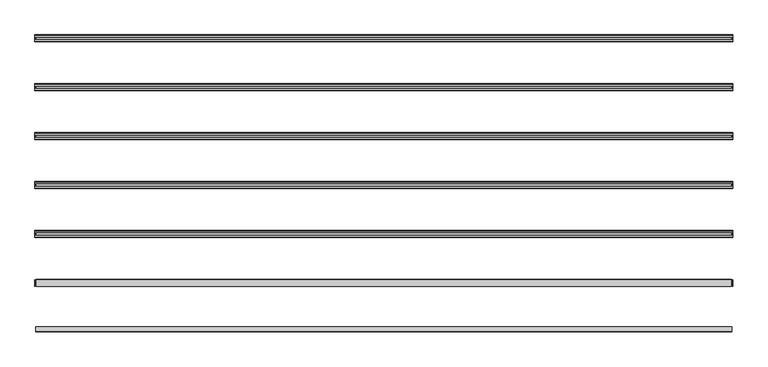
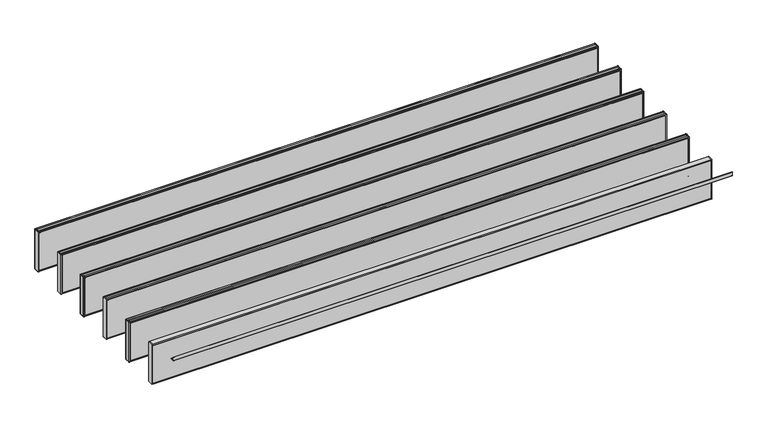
"""IFC4 building model written with IfcOpenShell, lengths in millimetres: proxy geometry, durlum_POLYLAM : durlum_POLYLAM 40 RV-L6."""

from ifc_helpers import new_model, si_unit, point, frame, frame_2d, origin, place, context, project, spatial, polyline, circle_curve, trimmed, segment, composite_curve, outline, extrude, source, transform, mapped, element, save
from ifc_brep_helpers import plane_surface, cylinder_surface, advanced_brep


def generic_models_68ff6faa(model_context):
    return source(origin(), model_context, "Body", "SolidModel", [
        extrude(outline(composite_curve([segment(polyline([(2.0, 2079.9), (2.0, 2054.0)]), True, "CONTINUOUS"), segment(trimmed(circle_curve(frame_2d((4.0, 2054.0)), 2.0), [point((2.0, 2054.0))], [point((4.0, 2052.0))], True, "CARTESIAN"), True, "CONTINUOUS"), segment(polyline([(4.0, 2052.0), (29.9, 2052.0), (29.9, 2050.0), (4.0, 2050.0)]), True, "CONTINUOUS"), segment(trimmed(circle_curve(frame_2d((4.0, 2054.0)), 4.0), [point((4.0, 2050.0))], [point((0.0, 2054.0))], False, "CARTESIAN"), True, "CONTINUOUS"), segment(polyline([(0.0, 2054.0), (0.0, 2079.9), (2.0, 2079.9)]), True, "CONTINUOUS")], self_intersect=False)), frame((-1990.0, 0.0, 0.0), z_axis=(1.0, 0.0, 0.0), x_axis=(0.0, 1.0, 0.0)), (0.0, 0.0, 1.0), 3980.0),
        extrude(outline(polyline([(1993.0, 1699.0), (1995.0, 1699.0), (1995.0, 1661.0), (1993.0, 1661.0), (1993.0, 1699.0)])), frame((0.0, 0.0, 1717.9), z_axis=(0.0, 0.0, 1.0), x_axis=(1.0, 0.0, 0.0)), (0.0, 0.0, 1.0), 298.0),
        extrude(outline(polyline([(-1995.0, 1699.0), (-1993.0, 1699.0), (-1993.0, 1661.0), (-1995.0, 1661.0), (-1995.0, 1699.0)])), frame((0.0, 0.0, 1717.9), z_axis=(0.0, 0.0, 1.0), x_axis=(1.0, 0.0, 0.0)), (0.0, 0.0, 1.0), 298.0),
        extrude(outline(polyline([(1986.5, 1699.0), (1986.5, 1661.0), (-1986.5, 1661.0), (-1986.5, 1699.0), (1986.5, 1699.0)])), frame((0.0, 0.0, 1717.9), z_axis=(0.0, 0.0, 1.0), x_axis=(1.0, 0.0, 0.0)), (0.0, 0.0, 1.0), 298.0),
        extrude(outline(polyline([(1986.5, 1699.0), (-1986.5, 1699.0), (-1986.5, 1700.0), (1986.5, 1700.0), (1986.5, 1699.0)])), frame((0.0, 0.0, 1725.4), z_axis=(0.0, 0.0, 1.0), x_axis=(1.0, 0.0, 0.0)), (0.0, 0.0, 1.0), 283.0),
        extrude(outline(polyline([(1986.5, 1660.0), (-1986.5, 1660.0), (-1986.5, 1661.0), (1986.5, 1661.0), (1986.5, 1660.0)])), frame((0.0, 0.0, 1725.4), z_axis=(0.0, 0.0, 1.0), x_axis=(1.0, 0.0, 0.0)), (0.0, 0.0, 1.0), 283.0),
        advanced_brep(
        [(1995.0, 1698.0, 2016.9), (1995.0, 1688.0, 2016.9), (1995.0, 1688.0, 2015.9), (1995.0, 1699.0, 2015.9), (1995.0, 1699.0, 1717.9), (1995.0, 1661.0, 1717.9), (1995.0, 1661.0, 2015.8155735), (1995.0, 1672.0, 2015.8155735), (1995.0, 1672.0, 2016.9), (1995.0, 1662.0, 2016.9), (1995.0, 1660.0, 2014.9), (1995.0, 1660.0, 1718.9), (1995.0, 1662.0, 1716.9), (1995.0, 1698.0, 1716.9), (1995.0, 1700.0, 1718.9), (1995.0, 1700.0, 2014.9), (-1995.0, 1698.0, 2016.9), (-1995.0, 1700.0, 2014.9), (-1995.0, 1700.0, 1718.9), (-1995.0, 1698.0, 1716.9), (-1995.0, 1662.0, 1716.9), (-1995.0, 1660.0, 1718.9), (-1995.0, 1660.0, 2014.9), (-1995.0, 1662.0, 2016.9), (-1995.0, 1672.0, 2016.9), (-1995.0, 1672.0, 2015.8155735), (-1995.0, 1661.0, 2015.8155735), (-1995.0, 1661.0, 1717.9), (-1995.0, 1699.0, 1717.9), (-1995.0, 1699.0, 2015.9), (-1995.0, 1688.0, 2015.9), (-1995.0, 1688.0, 2016.9), (-1986.5, 1699.0, 2008.4), (1986.5, 1699.0, 2008.4), (1986.5, 1699.0, 1725.4), (-1986.5, 1699.0, 1725.4), (1986.5, 1661.0, 2008.4), (-1986.5, 1661.0, 2008.4), (-1986.5, 1661.0, 1725.4), (1986.5, 1661.0, 1725.4), (-1986.5, 1660.0, 2008.4), (1986.5, 1660.0, 2008.4), (1986.5, 1660.0, 1725.4), (-1986.5, 1660.0, 1725.4), (1986.5, 1700.0, 2008.4), (-1986.5, 1700.0, 2008.4), (-1986.5, 1700.0, 1725.4), (1986.5, 1700.0, 1725.4)],
        [
            (0, 1),
            (1, 2),
            (2, 3),
            (3, 4),
            (4, 5),
            (5, 6),
            (6, 7),
            (7, 8),
            (8, 9),
            (9, 10, circle_curve(frame((1995.0, 1662.0, 2014.9), z_axis=(1.0, 0.0, 0.0), x_axis=(0.0, 1.0, 0.0)), 2.0)),
            (10, 11),
            (11, 12, circle_curve(frame((1995.0, 1662.0, 1718.9), z_axis=(1.0, 0.0, 0.0), x_axis=(0.0, 1.0, 0.0)), 2.0)),
            (12, 13),
            (13, 14, circle_curve(frame((1995.0, 1698.0, 1718.9), z_axis=(1.0, 0.0, 0.0), x_axis=(0.0, 1.0, 0.0)), 2.0)),
            (14, 15),
            (15, 0, circle_curve(frame((1995.0, 1698.0, 2014.9), z_axis=(1.0, 0.0, 0.0), x_axis=(0.0, 1.0, 0.0)), 2.0)),
            (16, 17, circle_curve(frame((-1995.0, 1698.0, 2014.9), z_axis=(-1.0, 0.0, 0.0), x_axis=(0.0, 1.0, 0.0)), 2.0)),
            (17, 18),
            (18, 19, circle_curve(frame((-1995.0, 1698.0, 1718.9), z_axis=(-1.0, 0.0, 0.0), x_axis=(0.0, 1.0, 0.0)), 2.0)),
            (19, 20),
            (20, 21, circle_curve(frame((-1995.0, 1662.0, 1718.9), z_axis=(-1.0, 0.0, 0.0), x_axis=(0.0, 1.0, 0.0)), 2.0)),
            (21, 22),
            (22, 23, circle_curve(frame((-1995.0, 1662.0, 2014.9), z_axis=(-1.0, 0.0, 0.0), x_axis=(0.0, 1.0, 0.0)), 2.0)),
            (23, 24),
            (24, 25),
            (25, 26),
            (26, 27),
            (27, 28),
            (28, 29),
            (29, 30),
            (30, 31),
            (31, 16),
            (0, 16),
            (31, 1),
            (30, 2),
            (29, 3),
            (28, 4),
            (32, 33),
            (33, 34),
            (34, 35),
            (35, 32),
            (27, 5),
            (26, 6),
            (36, 37),
            (37, 38),
            (38, 39),
            (39, 36),
            (25, 7),
            (24, 8),
            (23, 9),
            (10, 22),
            (21, 11),
            (40, 41),
            (41, 42),
            (42, 43),
            (43, 40),
            (12, 20),
            (19, 13),
            (14, 18),
            (17, 15),
            (44, 45),
            (45, 46),
            (46, 47),
            (47, 44),
            (44, 33),
            (32, 45),
            (36, 41),
            (40, 37),
            (35, 46),
            (43, 38),
            (34, 47),
            (42, 39),
        ],
        [
            plane_surface(frame((1995.0, 1688.0, 2016.9), z_axis=(1.0, 0.0, 0.0), x_axis=(0.0, -1.0, 0.0))),
            plane_surface(frame((-1995.0, 1688.0, 2016.9), z_axis=(-1.0, 0.0, 0.0), x_axis=(0.0, 1.0, 0.0))),
            plane_surface(frame((1995.0, 1698.0, 2016.9), z_axis=(0.0, 0.0, 1.0), x_axis=(-1.0, 0.0, 0.0))),
            plane_surface(frame((1995.0, 1688.0, 2016.9), z_axis=(0.0, -1.0, 0.0), x_axis=(-1.0, 0.0, 0.0))),
            plane_surface(frame((1995.0, 1688.0, 2015.9), z_axis=(0.0, 0.0, -1.0), x_axis=(-1.0, 0.0, 0.0))),
            plane_surface(frame((1995.0, 1699.0, 2015.9), z_axis=(0.0, -1.0, 0.0), x_axis=(-1.0, 0.0, 0.0))),
            plane_surface(frame((1995.0, 1699.0, 1717.9), z_axis=(0.0, 0.0, 1.0), x_axis=(-1.0, 0.0, 0.0))),
            plane_surface(frame((1995.0, 1661.0, 1717.9), z_axis=(0.0, 1.0, 0.0), x_axis=(-1.0, 0.0, 0.0))),
            plane_surface(frame((1995.0, 1661.0, 2015.8155735), z_axis=(0.0, 0.0, -1.0), x_axis=(-1.0, 0.0, 0.0))),
            plane_surface(frame((1995.0, 1672.0, 2015.8155735), z_axis=(0.0, 1.0, 0.0), x_axis=(-1.0, 0.0, 0.0))),
            plane_surface(frame((1995.0, 1672.0, 2016.9), z_axis=(0.0, 0.0, 1.0), x_axis=(-1.0, 0.0, 0.0))),
            plane_surface(frame((1995.0, 1660.0, 2014.9), z_axis=(0.0, -1.0, 0.0), x_axis=(-1.0, 0.0, 0.0))),
            plane_surface(frame((1995.0, 1662.0, 1716.9), z_axis=(0.0, 0.0, -1.0), x_axis=(-1.0, 0.0, 0.0))),
            plane_surface(frame((1995.0, 1700.0, 1718.9), z_axis=(0.0, 1.0, 0.0), x_axis=(-1.0, 0.0, 0.0))),
            cylinder_surface(frame((-1995.0, 1662.0, 2014.9), z_axis=(1.0, 0.0, 0.0), x_axis=(0.0, 1.0, 0.0)), 2.0),
            cylinder_surface(frame((-1995.0, 1662.0, 1718.9), z_axis=(1.0, 0.0, 0.0), x_axis=(0.0, 1.0, 0.0)), 2.0),
            cylinder_surface(frame((-1995.0, 1698.0, 1718.9), z_axis=(1.0, 0.0, 0.0), x_axis=(0.0, 1.0, 0.0)), 2.0),
            cylinder_surface(frame((-1995.0, 1698.0, 2014.9), z_axis=(1.0, 0.0, 0.0), x_axis=(0.0, 1.0, 0.0)), 2.0),
            plane_surface(frame((1986.5, 1660.0, 2008.4), z_axis=(0.0, 0.0, -1.0), x_axis=(0.0, 1.0, 0.0))),
            plane_surface(frame((-1986.5, 1660.0, 2008.4), z_axis=(1.0, 0.0, 0.0), x_axis=(0.0, 1.0, 0.0))),
            plane_surface(frame((-1986.5, 1660.0, 1725.4), z_axis=(0.0, 0.0, 1.0), x_axis=(0.0, 1.0, 0.0))),
            plane_surface(frame((1986.5, 1660.0, 1725.4), z_axis=(-1.0, 0.0, 0.0), x_axis=(0.0, 1.0, 0.0))),
        ],
        [
            (0, [[1, 2, 3, 4, 5, 6, 7, 8, 9, 10, 11, 12, 13, 14, 15, 16]]),
            (1, [[17, 18, 19, 20, 21, 22, 23, 24, 25, 26, 27, 28, 29, 30, 31, 32]]),
            (2, [[-1, 33, -32, 34]]),
            (3, [[-2, -34, -31, 35]]),
            (4, [[-3, -35, -30, 36]]),
            (5, [[-4, -36, -29, 37], [38, 39, 40, 41]]),
            (6, [[-5, -37, -28, 42]]),
            (7, [[-6, -42, -27, 43], [44, 45, 46, 47]]),
            (8, [[-7, -43, -26, 48]]),
            (9, [[-8, -48, -25, 49]]),
            (10, [[-9, -49, -24, 50]]),
            (11, [[-11, 51, -22, 52], [53, 54, 55, 56]]),
            (12, [[-13, 57, -20, 58]]),
            (13, [[-15, 59, -18, 60], [61, 62, 63, 64]]),
            (14, [[-10, -50, -23, -51]]),
            (15, [[-12, -52, -21, -57]]),
            (16, [[-14, -58, -19, -59]]),
            (17, [[-16, -60, -17, -33]]),
            (18, [[65, -38, 66, -61]]),
            (18, [[67, -53, 68, -44]]),
            (19, [[-66, -41, 69, -62]]),
            (19, [[-68, -56, 70, -45]]),
            (20, [[-69, -40, 71, -63]]),
            (20, [[-70, -55, 72, -46]]),
            (21, [[-65, -64, -71, -39]]),
            (21, [[-67, -47, -72, -54]]),
        ],
    ),
        extrude(outline(polyline([(1993.0, 1419.0), (1995.0, 1419.0), (1995.0, 1381.0), (1993.0, 1381.0), (1993.0, 1419.0)])), frame((0.0, 0.0, 1717.9), z_axis=(0.0, 0.0, 1.0), x_axis=(1.0, 0.0, 0.0)), (0.0, 0.0, 1.0), 298.0),
        extrude(outline(polyline([(-1995.0, 1419.0), (-1993.0, 1419.0), (-1993.0, 1381.0), (-1995.0, 1381.0), (-1995.0, 1419.0)])), frame((0.0, 0.0, 1717.9), z_axis=(0.0, 0.0, 1.0), x_axis=(1.0, 0.0, 0.0)), (0.0, 0.0, 1.0), 298.0),
        extrude(outline(polyline([(1986.5, 1419.0), (1986.5, 1381.0), (-1986.5, 1381.0), (-1986.5, 1419.0), (1986.5, 1419.0)])), frame((0.0, 0.0, 1717.9), z_axis=(0.0, 0.0, 1.0), x_axis=(1.0, 0.0, 0.0)), (0.0, 0.0, 1.0), 298.0),
        extrude(outline(polyline([(1986.5, 1419.0), (-1986.5, 1419.0), (-1986.5, 1420.0), (1986.5, 1420.0), (1986.5, 1419.0)])), frame((0.0, 0.0, 1725.4), z_axis=(0.0, 0.0, 1.0), x_axis=(1.0, 0.0, 0.0)), (0.0, 0.0, 1.0), 283.0),
        extrude(outline(polyline([(1986.5, 1380.0), (-1986.5, 1380.0), (-1986.5, 1381.0), (1986.5, 1381.0), (1986.5, 1380.0)])), frame((0.0, 0.0, 1725.4), z_axis=(0.0, 0.0, 1.0), x_axis=(1.0, 0.0, 0.0)), (0.0, 0.0, 1.0), 283.0),
        advanced_brep(
        [(1995.0, 1418.0, 2016.9), (1995.0, 1408.0, 2016.9), (1995.0, 1408.0, 2015.9), (1995.0, 1419.0, 2015.9), (1995.0, 1419.0, 1717.9), (1995.0, 1381.0, 1717.9), (1995.0, 1381.0, 2015.8155735), (1995.0, 1392.0, 2015.8155735), (1995.0, 1392.0, 2016.9), (1995.0, 1382.0, 2016.9), (1995.0, 1380.0, 2014.9), (1995.0, 1380.0, 1718.9), (1995.0, 1382.0, 1716.9), (1995.0, 1418.0, 1716.9), (1995.0, 1420.0, 1718.9), (1995.0, 1420.0, 2014.9), (-1995.0, 1418.0, 2016.9), (-1995.0, 1420.0, 2014.9), (-1995.0, 1420.0, 1718.9), (-1995.0, 1418.0, 1716.9), (-1995.0, 1382.0, 1716.9), (-1995.0, 1380.0, 1718.9), (-1995.0, 1380.0, 2014.9), (-1995.0, 1382.0, 2016.9), (-1995.0, 1392.0, 2016.9), (-1995.0, 1392.0, 2015.8155735), (-1995.0, 1381.0, 2015.8155735), (-1995.0, 1381.0, 1717.9), (-1995.0, 1419.0, 1717.9), (-1995.0, 1419.0, 2015.9), (-1995.0, 1408.0, 2015.9), (-1995.0, 1408.0, 2016.9), (-1986.5, 1419.0, 2008.4), (1986.5, 1419.0, 2008.4), (1986.5, 1419.0, 1725.4), (-1986.5, 1419.0, 1725.4), (1986.5, 1381.0, 2008.4), (-1986.5, 1381.0, 2008.4), (-1986.5, 1381.0, 1725.4), (1986.5, 1381.0, 1725.4), (-1986.5, 1380.0, 2008.4), (1986.5, 1380.0, 2008.4), (1986.5, 1380.0, 1725.4), (-1986.5, 1380.0, 1725.4), (1986.5, 1420.0, 2008.4), (-1986.5, 1420.0, 2008.4), (-1986.5, 1420.0, 1725.4), (1986.5, 1420.0, 1725.4)],
        [
            (0, 1),
            (1, 2),
            (2, 3),
            (3, 4),
            (4, 5),
            (5, 6),
            (6, 7),
            (7, 8),
            (8, 9),
            (9, 10, circle_curve(frame((1995.0, 1382.0, 2014.9), z_axis=(1.0, 0.0, 0.0), x_axis=(0.0, 1.0, 0.0)), 2.0)),
            (10, 11),
            (11, 12, circle_curve(frame((1995.0, 1382.0, 1718.9), z_axis=(1.0, 0.0, 0.0), x_axis=(0.0, 1.0, 0.0)), 2.0)),
            (12, 13),
            (13, 14, circle_curve(frame((1995.0, 1418.0, 1718.9), z_axis=(1.0, 0.0, 0.0), x_axis=(0.0, 1.0, 0.0)), 2.0)),
            (14, 15),
            (15, 0, circle_curve(frame((1995.0, 1418.0, 2014.9), z_axis=(1.0, 0.0, 0.0), x_axis=(0.0, 1.0, 0.0)), 2.0)),
            (16, 17, circle_curve(frame((-1995.0, 1418.0, 2014.9), z_axis=(-1.0, 0.0, 0.0), x_axis=(0.0, 1.0, 0.0)), 2.0)),
            (17, 18),
            (18, 19, circle_curve(frame((-1995.0, 1418.0, 1718.9), z_axis=(-1.0, 0.0, 0.0), x_axis=(0.0, 1.0, 0.0)), 2.0)),
            (19, 20),
            (20, 21, circle_curve(frame((-1995.0, 1382.0, 1718.9), z_axis=(-1.0, 0.0, 0.0), x_axis=(0.0, 1.0, 0.0)), 2.0)),
            (21, 22),
            (22, 23, circle_curve(frame((-1995.0, 1382.0, 2014.9), z_axis=(-1.0, 0.0, 0.0), x_axis=(0.0, 1.0, 0.0)), 2.0)),
            (23, 24),
            (24, 25),
            (25, 26),
            (26, 27),
            (27, 28),
            (28, 29),
            (29, 30),
            (30, 31),
            (31, 16),
            (0, 16),
            (31, 1),
            (30, 2),
            (29, 3),
            (28, 4),
            (32, 33),
            (33, 34),
            (34, 35),
            (35, 32),
            (27, 5),
            (26, 6),
            (36, 37),
            (37, 38),
            (38, 39),
            (39, 36),
            (25, 7),
            (24, 8),
            (23, 9),
            (10, 22),
            (21, 11),
            (40, 41),
            (41, 42),
            (42, 43),
            (43, 40),
            (12, 20),
            (19, 13),
            (14, 18),
            (17, 15),
            (44, 45),
            (45, 46),
            (46, 47),
            (47, 44),
            (44, 33),
            (32, 45),
            (36, 41),
            (40, 37),
            (35, 46),
            (43, 38),
            (34, 47),
            (42, 39),
        ],
        [
            plane_surface(frame((1995.0, 1408.0, 2016.9), z_axis=(1.0, 0.0, 0.0), x_axis=(0.0, -1.0, 0.0))),
            plane_surface(frame((-1995.0, 1408.0, 2016.9), z_axis=(-1.0, 0.0, 0.0), x_axis=(0.0, 1.0, 0.0))),
            plane_surface(frame((1995.0, 1418.0, 2016.9), z_axis=(0.0, 0.0, 1.0), x_axis=(-1.0, 0.0, 0.0))),
            plane_surface(frame((1995.0, 1408.0, 2016.9), z_axis=(0.0, -1.0, 0.0), x_axis=(-1.0, 0.0, 0.0))),
            plane_surface(frame((1995.0, 1408.0, 2015.9), z_axis=(0.0, 0.0, -1.0), x_axis=(-1.0, 0.0, 0.0))),
            plane_surface(frame((1995.0, 1419.0, 2015.9), z_axis=(0.0, -1.0, 0.0), x_axis=(-1.0, 0.0, 0.0))),
            plane_surface(frame((1995.0, 1419.0, 1717.9), z_axis=(0.0, 0.0, 1.0), x_axis=(-1.0, 0.0, 0.0))),
            plane_surface(frame((1995.0, 1381.0, 1717.9), z_axis=(0.0, 1.0, 0.0), x_axis=(-1.0, 0.0, 0.0))),
            plane_surface(frame((1995.0, 1381.0, 2015.8155735), z_axis=(0.0, 0.0, -1.0), x_axis=(-1.0, 0.0, 0.0))),
            plane_surface(frame((1995.0, 1392.0, 2015.8155735), z_axis=(0.0, 1.0, 0.0), x_axis=(-1.0, 0.0, 0.0))),
            plane_surface(frame((1995.0, 1392.0, 2016.9), z_axis=(0.0, 0.0, 1.0), x_axis=(-1.0, 0.0, 0.0))),
            plane_surface(frame((1995.0, 1380.0, 2014.9), z_axis=(0.0, -1.0, 0.0), x_axis=(-1.0, 0.0, 0.0))),
            plane_surface(frame((1995.0, 1382.0, 1716.9), z_axis=(0.0, 0.0, -1.0), x_axis=(-1.0, 0.0, 0.0))),
            plane_surface(frame((1995.0, 1420.0, 1718.9), z_axis=(0.0, 1.0, 0.0), x_axis=(-1.0, 0.0, 0.0))),
            cylinder_surface(frame((-1995.0, 1382.0, 2014.9), z_axis=(1.0, 0.0, 0.0), x_axis=(0.0, 1.0, 0.0)), 2.0),
            cylinder_surface(frame((-1995.0, 1382.0, 1718.9), z_axis=(1.0, 0.0, 0.0), x_axis=(0.0, 1.0, 0.0)), 2.0),
            cylinder_surface(frame((-1995.0, 1418.0, 1718.9), z_axis=(1.0, 0.0, 0.0), x_axis=(0.0, 1.0, 0.0)), 2.0),
            cylinder_surface(frame((-1995.0, 1418.0, 2014.9), z_axis=(1.0, 0.0, 0.0), x_axis=(0.0, 1.0, 0.0)), 2.0),
            plane_surface(frame((1986.5, 1380.0, 2008.4), z_axis=(0.0, 0.0, -1.0), x_axis=(0.0, 1.0, 0.0))),
            plane_surface(frame((-1986.5, 1380.0, 2008.4), z_axis=(1.0, 0.0, 0.0), x_axis=(0.0, 1.0, 0.0))),
            plane_surface(frame((-1986.5, 1380.0, 1725.4), z_axis=(0.0, 0.0, 1.0), x_axis=(0.0, 1.0, 0.0))),
            plane_surface(frame((1986.5, 1380.0, 1725.4), z_axis=(-1.0, 0.0, 0.0), x_axis=(0.0, 1.0, 0.0))),
        ],
        [
            (0, [[1, 2, 3, 4, 5, 6, 7, 8, 9, 10, 11, 12, 13, 14, 15, 16]]),
            (1, [[17, 18, 19, 20, 21, 22, 23, 24, 25, 26, 27, 28, 29, 30, 31, 32]]),
            (2, [[-1, 33, -32, 34]]),
            (3, [[-2, -34, -31, 35]]),
            (4, [[-3, -35, -30, 36]]),
            (5, [[-4, -36, -29, 37], [38, 39, 40, 41]]),
            (6, [[-5, -37, -28, 42]]),
            (7, [[-6, -42, -27, 43], [44, 45, 46, 47]]),
            (8, [[-7, -43, -26, 48]]),
            (9, [[-8, -48, -25, 49]]),
            (10, [[-9, -49, -24, 50]]),
            (11, [[-11, 51, -22, 52], [53, 54, 55, 56]]),
            (12, [[-13, 57, -20, 58]]),
            (13, [[-15, 59, -18, 60], [61, 62, 63, 64]]),
            (14, [[-10, -50, -23, -51]]),
            (15, [[-12, -52, -21, -57]]),
            (16, [[-14, -58, -19, -59]]),
            (17, [[-16, -60, -17, -33]]),
            (18, [[65, -38, 66, -61]]),
            (18, [[67, -53, 68, -44]]),
            (19, [[-66, -41, 69, -62]]),
            (19, [[-68, -56, 70, -45]]),
            (20, [[-69, -40, 71, -63]]),
            (20, [[-70, -55, 72, -46]]),
            (21, [[-65, -64, -71, -39]]),
            (21, [[-67, -47, -72, -54]]),
        ],
    ),
        extrude(outline(polyline([(1993.0, 1139.0), (1995.0, 1139.0), (1995.0, 1101.0), (1993.0, 1101.0), (1993.0, 1139.0)])), frame((0.0, 0.0, 1717.9), z_axis=(0.0, 0.0, 1.0), x_axis=(1.0, 0.0, 0.0)), (0.0, 0.0, 1.0), 298.0),
        extrude(outline(polyline([(-1995.0, 1139.0), (-1993.0, 1139.0), (-1993.0, 1101.0), (-1995.0, 1101.0), (-1995.0, 1139.0)])), frame((0.0, 0.0, 1717.9), z_axis=(0.0, 0.0, 1.0), x_axis=(1.0, 0.0, 0.0)), (0.0, 0.0, 1.0), 298.0),
        extrude(outline(polyline([(1986.5, 1139.0), (1986.5, 1101.0), (-1986.5, 1101.0), (-1986.5, 1139.0), (1986.5, 1139.0)])), frame((0.0, 0.0, 1717.9), z_axis=(0.0, 0.0, 1.0), x_axis=(1.0, 0.0, 0.0)), (0.0, 0.0, 1.0), 298.0),
        extrude(outline(polyline([(1986.5, 1139.0), (-1986.5, 1139.0), (-1986.5, 1140.0), (1986.5, 1140.0), (1986.5, 1139.0)])), frame((0.0, 0.0, 1725.4), z_axis=(0.0, 0.0, 1.0), x_axis=(1.0, 0.0, 0.0)), (0.0, 0.0, 1.0), 283.0),
        extrude(outline(polyline([(1986.5, 1100.0), (-1986.5, 1100.0), (-1986.5, 1101.0), (1986.5, 1101.0), (1986.5, 1100.0)])), frame((0.0, 0.0, 1725.4), z_axis=(0.0, 0.0, 1.0), x_axis=(1.0, 0.0, 0.0)), (0.0, 0.0, 1.0), 283.0),
        advanced_brep(
        [(1995.0, 1138.0, 2016.9), (1995.0, 1128.0, 2016.9), (1995.0, 1128.0, 2015.9), (1995.0, 1139.0, 2015.9), (1995.0, 1139.0, 1717.9), (1995.0, 1101.0, 1717.9), (1995.0, 1101.0, 2015.8155735), (1995.0, 1112.0, 2015.8155735), (1995.0, 1112.0, 2016.9), (1995.0, 1102.0, 2016.9), (1995.0, 1100.0, 2014.9), (1995.0, 1100.0, 1718.9), (1995.0, 1102.0, 1716.9), (1995.0, 1138.0, 1716.9), (1995.0, 1140.0, 1718.9), (1995.0, 1140.0, 2014.9), (-1995.0, 1138.0, 2016.9), (-1995.0, 1140.0, 2014.9), (-1995.0, 1140.0, 1718.9), (-1995.0, 1138.0, 1716.9), (-1995.0, 1102.0, 1716.9), (-1995.0, 1100.0, 1718.9), (-1995.0, 1100.0, 2014.9), (-1995.0, 1102.0, 2016.9), (-1995.0, 1112.0, 2016.9), (-1995.0, 1112.0, 2015.8155735), (-1995.0, 1101.0, 2015.8155735), (-1995.0, 1101.0, 1717.9), (-1995.0, 1139.0, 1717.9), (-1995.0, 1139.0, 2015.9), (-1995.0, 1128.0, 2015.9), (-1995.0, 1128.0, 2016.9), (-1986.5, 1139.0, 2008.4), (1986.5, 1139.0, 2008.4), (1986.5, 1139.0, 1725.4), (-1986.5, 1139.0, 1725.4), (1986.5, 1101.0, 2008.4), (-1986.5, 1101.0, 2008.4), (-1986.5, 1101.0, 1725.4), (1986.5, 1101.0, 1725.4), (-1986.5, 1100.0, 2008.4), (1986.5, 1100.0, 2008.4), (1986.5, 1100.0, 1725.4), (-1986.5, 1100.0, 1725.4), (1986.5, 1140.0, 2008.4), (-1986.5, 1140.0, 2008.4), (-1986.5, 1140.0, 1725.4), (1986.5, 1140.0, 1725.4)],
        [
            (0, 1),
            (1, 2),
            (2, 3),
            (3, 4),
            (4, 5),
            (5, 6),
            (6, 7),
            (7, 8),
            (8, 9),
            (9, 10, circle_curve(frame((1995.0, 1102.0, 2014.9), z_axis=(1.0, 0.0, 0.0), x_axis=(0.0, 1.0, 0.0)), 2.0)),
            (10, 11),
            (11, 12, circle_curve(frame((1995.0, 1102.0, 1718.9), z_axis=(1.0, 0.0, 0.0), x_axis=(0.0, 1.0, 0.0)), 2.0)),
            (12, 13),
            (13, 14, circle_curve(frame((1995.0, 1138.0, 1718.9), z_axis=(1.0, 0.0, 0.0), x_axis=(0.0, 1.0, 0.0)), 2.0)),
            (14, 15),
            (15, 0, circle_curve(frame((1995.0, 1138.0, 2014.9), z_axis=(1.0, 0.0, 0.0), x_axis=(0.0, 1.0, 0.0)), 2.0)),
            (16, 17, circle_curve(frame((-1995.0, 1138.0, 2014.9), z_axis=(-1.0, 0.0, 0.0), x_axis=(0.0, 1.0, 0.0)), 2.0)),
            (17, 18),
            (18, 19, circle_curve(frame((-1995.0, 1138.0, 1718.9), z_axis=(-1.0, 0.0, 0.0), x_axis=(0.0, 1.0, 0.0)), 2.0)),
            (19, 20),
            (20, 21, circle_curve(frame((-1995.0, 1102.0, 1718.9), z_axis=(-1.0, 0.0, 0.0), x_axis=(0.0, 1.0, 0.0)), 2.0)),
            (21, 22),
            (22, 23, circle_curve(frame((-1995.0, 1102.0, 2014.9), z_axis=(-1.0, 0.0, 0.0), x_axis=(0.0, 1.0, 0.0)), 2.0)),
            (23, 24),
            (24, 25),
            (25, 26),
            (26, 27),
            (27, 28),
            (28, 29),
            (29, 30),
            (30, 31),
            (31, 16),
            (0, 16),
            (31, 1),
            (30, 2),
            (29, 3),
            (28, 4),
            (32, 33),
            (33, 34),
            (34, 35),
            (35, 32),
            (27, 5),
            (26, 6),
            (36, 37),
            (37, 38),
            (38, 39),
            (39, 36),
            (25, 7),
            (24, 8),
            (23, 9),
            (10, 22),
            (21, 11),
            (40, 41),
            (41, 42),
            (42, 43),
            (43, 40),
            (12, 20),
            (19, 13),
            (14, 18),
            (17, 15),
            (44, 45),
            (45, 46),
            (46, 47),
            (47, 44),
            (44, 33),
            (32, 45),
            (36, 41),
            (40, 37),
            (35, 46),
            (43, 38),
            (34, 47),
            (42, 39),
        ],
        [
            plane_surface(frame((1995.0, 1128.0, 2016.9), z_axis=(1.0, 0.0, 0.0), x_axis=(0.0, -1.0, 0.0))),
            plane_surface(frame((-1995.0, 1128.0, 2016.9), z_axis=(-1.0, 0.0, 0.0), x_axis=(0.0, 1.0, 0.0))),
            plane_surface(frame((1995.0, 1138.0, 2016.9), z_axis=(0.0, 0.0, 1.0), x_axis=(-1.0, 0.0, 0.0))),
            plane_surface(frame((1995.0, 1128.0, 2016.9), z_axis=(0.0, -1.0, 0.0), x_axis=(-1.0, 0.0, 0.0))),
            plane_surface(frame((1995.0, 1128.0, 2015.9), z_axis=(0.0, 0.0, -1.0), x_axis=(-1.0, 0.0, 0.0))),
            plane_surface(frame((1995.0, 1139.0, 2015.9), z_axis=(0.0, -1.0, 0.0), x_axis=(-1.0, 0.0, 0.0))),
            plane_surface(frame((1995.0, 1139.0, 1717.9), z_axis=(0.0, 0.0, 1.0), x_axis=(-1.0, 0.0, 0.0))),
            plane_surface(frame((1995.0, 1101.0, 1717.9), z_axis=(0.0, 1.0, 0.0), x_axis=(-1.0, 0.0, 0.0))),
            plane_surface(frame((1995.0, 1101.0, 2015.8155735), z_axis=(0.0, 0.0, -1.0), x_axis=(-1.0, 0.0, 0.0))),
            plane_surface(frame((1995.0, 1112.0, 2015.8155735), z_axis=(0.0, 1.0, 0.0), x_axis=(-1.0, 0.0, 0.0))),
            plane_surface(frame((1995.0, 1112.0, 2016.9), z_axis=(0.0, 0.0, 1.0), x_axis=(-1.0, 0.0, 0.0))),
            plane_surface(frame((1995.0, 1100.0, 2014.9), z_axis=(0.0, -1.0, 0.0), x_axis=(-1.0, 0.0, 0.0))),
            plane_surface(frame((1995.0, 1102.0, 1716.9), z_axis=(0.0, 0.0, -1.0), x_axis=(-1.0, 0.0, 0.0))),
            plane_surface(frame((1995.0, 1140.0, 1718.9), z_axis=(0.0, 1.0, 0.0), x_axis=(-1.0, 0.0, 0.0))),
            cylinder_surface(frame((-1995.0, 1102.0, 2014.9), z_axis=(1.0, 0.0, 0.0), x_axis=(0.0, 1.0, 0.0)), 2.0),
            cylinder_surface(frame((-1995.0, 1102.0, 1718.9), z_axis=(1.0, 0.0, 0.0), x_axis=(0.0, 1.0, 0.0)), 2.0),
            cylinder_surface(frame((-1995.0, 1138.0, 1718.9), z_axis=(1.0, 0.0, 0.0), x_axis=(0.0, 1.0, 0.0)), 2.0),
            cylinder_surface(frame((-1995.0, 1138.0, 2014.9), z_axis=(1.0, 0.0, 0.0), x_axis=(0.0, 1.0, 0.0)), 2.0),
            plane_surface(frame((1986.5, 1100.0, 2008.4), z_axis=(0.0, 0.0, -1.0), x_axis=(0.0, 1.0, 0.0))),
            plane_surface(frame((-1986.5, 1100.0, 2008.4), z_axis=(1.0, 0.0, 0.0), x_axis=(0.0, 1.0, 0.0))),
            plane_surface(frame((-1986.5, 1100.0, 1725.4), z_axis=(0.0, 0.0, 1.0), x_axis=(0.0, 1.0, 0.0))),
            plane_surface(frame((1986.5, 1100.0, 1725.4), z_axis=(-1.0, 0.0, 0.0), x_axis=(0.0, 1.0, 0.0))),
        ],
        [
            (0, [[1, 2, 3, 4, 5, 6, 7, 8, 9, 10, 11, 12, 13, 14, 15, 16]]),
            (1, [[17, 18, 19, 20, 21, 22, 23, 24, 25, 26, 27, 28, 29, 30, 31, 32]]),
            (2, [[-1, 33, -32, 34]]),
            (3, [[-2, -34, -31, 35]]),
            (4, [[-3, -35, -30, 36]]),
            (5, [[-4, -36, -29, 37], [38, 39, 40, 41]]),
            (6, [[-5, -37, -28, 42]]),
            (7, [[-6, -42, -27, 43], [44, 45, 46, 47]]),
            (8, [[-7, -43, -26, 48]]),
            (9, [[-8, -48, -25, 49]]),
            (10, [[-9, -49, -24, 50]]),
            (11, [[-11, 51, -22, 52], [53, 54, 55, 56]]),
            (12, [[-13, 57, -20, 58]]),
            (13, [[-15, 59, -18, 60], [61, 62, 63, 64]]),
            (14, [[-10, -50, -23, -51]]),
            (15, [[-12, -52, -21, -57]]),
            (16, [[-14, -58, -19, -59]]),
            (17, [[-16, -60, -17, -33]]),
            (18, [[65, -38, 66, -61]]),
            (18, [[67, -53, 68, -44]]),
            (19, [[-66, -41, 69, -62]]),
            (19, [[-68, -56, 70, -45]]),
            (20, [[-69, -40, 71, -63]]),
            (20, [[-70, -55, 72, -46]]),
            (21, [[-65, -64, -71, -39]]),
            (21, [[-67, -47, -72, -54]]),
        ],
    ),
        extrude(outline(polyline([(1993.0, 859.0), (1995.0, 859.0), (1995.0, 821.0), (1993.0, 821.0), (1993.0, 859.0)])), frame((0.0, 0.0, 1717.9), z_axis=(0.0, 0.0, 1.0), x_axis=(1.0, 0.0, 0.0)), (0.0, 0.0, 1.0), 298.0),
        extrude(outline(polyline([(-1995.0, 859.0), (-1993.0, 859.0), (-1993.0, 821.0), (-1995.0, 821.0), (-1995.0, 859.0)])), frame((0.0, 0.0, 1717.9), z_axis=(0.0, 0.0, 1.0), x_axis=(1.0, 0.0, 0.0)), (0.0, 0.0, 1.0), 298.0),
        extrude(outline(polyline([(1986.5, 859.0), (1986.5, 821.0), (-1986.5, 821.0), (-1986.5, 859.0), (1986.5, 859.0)])), frame((0.0, 0.0, 1717.9), z_axis=(0.0, 0.0, 1.0), x_axis=(1.0, 0.0, 0.0)), (0.0, 0.0, 1.0), 298.0),
        extrude(outline(polyline([(1986.5, 859.0), (-1986.5, 859.0), (-1986.5, 860.0), (1986.5, 860.0), (1986.5, 859.0)])), frame((0.0, 0.0, 1725.4), z_axis=(0.0, 0.0, 1.0), x_axis=(1.0, 0.0, 0.0)), (0.0, 0.0, 1.0), 283.0),
        extrude(outline(polyline([(1986.5, 820.0), (-1986.5, 820.0), (-1986.5, 821.0), (1986.5, 821.0), (1986.5, 820.0)])), frame((0.0, 0.0, 1725.4), z_axis=(0.0, 0.0, 1.0), x_axis=(1.0, 0.0, 0.0)), (0.0, 0.0, 1.0), 283.0),
        advanced_brep(
        [(1995.0, 858.0, 2016.9), (1995.0, 848.0, 2016.9), (1995.0, 848.0, 2015.9), (1995.0, 859.0, 2015.9), (1995.0, 859.0, 1717.9), (1995.0, 821.0, 1717.9), (1995.0, 821.0, 2015.8155735), (1995.0, 832.0, 2015.8155735), (1995.0, 832.0, 2016.9), (1995.0, 822.0, 2016.9), (1995.0, 820.0, 2014.9), (1995.0, 820.0, 1718.9), (1995.0, 822.0, 1716.9), (1995.0, 858.0, 1716.9), (1995.0, 860.0, 1718.9), (1995.0, 860.0, 2014.9), (-1995.0, 858.0, 2016.9), (-1995.0, 860.0, 2014.9), (-1995.0, 860.0, 1718.9), (-1995.0, 858.0, 1716.9), (-1995.0, 822.0, 1716.9), (-1995.0, 820.0, 1718.9), (-1995.0, 820.0, 2014.9), (-1995.0, 822.0, 2016.9), (-1995.0, 832.0, 2016.9), (-1995.0, 832.0, 2015.8155735), (-1995.0, 821.0, 2015.8155735), (-1995.0, 821.0, 1717.9), (-1995.0, 859.0, 1717.9), (-1995.0, 859.0, 2015.9), (-1995.0, 848.0, 2015.9), (-1995.0, 848.0, 2016.9), (-1986.5, 859.0, 2008.4), (1986.5, 859.0, 2008.4), (1986.5, 859.0, 1725.4), (-1986.5, 859.0, 1725.4), (1986.5, 821.0, 2008.4), (-1986.5, 821.0, 2008.4), (-1986.5, 821.0, 1725.4), (1986.5, 821.0, 1725.4), (-1986.5, 820.0, 2008.4), (1986.5, 820.0, 2008.4), (1986.5, 820.0, 1725.4), (-1986.5, 820.0, 1725.4), (1986.5, 860.0, 2008.4), (-1986.5, 860.0, 2008.4), (-1986.5, 860.0, 1725.4), (1986.5, 860.0, 1725.4)],
        [
            (0, 1),
            (1, 2),
            (2, 3),
            (3, 4),
            (4, 5),
            (5, 6),
            (6, 7),
            (7, 8),
            (8, 9),
            (9, 10, circle_curve(frame((1995.0, 822.0, 2014.9), z_axis=(1.0, 0.0, 0.0), x_axis=(0.0, 1.0, 0.0)), 2.0)),
            (10, 11),
            (11, 12, circle_curve(frame((1995.0, 822.0, 1718.9), z_axis=(1.0, 0.0, 0.0), x_axis=(0.0, 1.0, 0.0)), 2.0)),
            (12, 13),
            (13, 14, circle_curve(frame((1995.0, 858.0, 1718.9), z_axis=(1.0, 0.0, 0.0), x_axis=(0.0, 1.0, 0.0)), 2.0)),
            (14, 15),
            (15, 0, circle_curve(frame((1995.0, 858.0, 2014.9), z_axis=(1.0, 0.0, 0.0), x_axis=(0.0, 1.0, 0.0)), 2.0)),
            (16, 17, circle_curve(frame((-1995.0, 858.0, 2014.9), z_axis=(-1.0, 0.0, 0.0), x_axis=(0.0, 1.0, 0.0)), 2.0)),
            (17, 18),
            (18, 19, circle_curve(frame((-1995.0, 858.0, 1718.9), z_axis=(-1.0, 0.0, 0.0), x_axis=(0.0, 1.0, 0.0)), 2.0)),
            (19, 20),
            (20, 21, circle_curve(frame((-1995.0, 822.0, 1718.9), z_axis=(-1.0, 0.0, 0.0), x_axis=(0.0, 1.0, 0.0)), 2.0)),
            (21, 22),
            (22, 23, circle_curve(frame((-1995.0, 822.0, 2014.9), z_axis=(-1.0, 0.0, 0.0), x_axis=(0.0, 1.0, 0.0)), 2.0)),
            (23, 24),
            (24, 25),
            (25, 26),
            (26, 27),
            (27, 28),
            (28, 29),
            (29, 30),
            (30, 31),
            (31, 16),
            (0, 16),
            (31, 1),
            (30, 2),
            (29, 3),
            (28, 4),
            (32, 33),
            (33, 34),
            (34, 35),
            (35, 32),
            (27, 5),
            (26, 6),
            (36, 37),
            (37, 38),
            (38, 39),
            (39, 36),
            (25, 7),
            (24, 8),
            (23, 9),
            (10, 22),
            (21, 11),
            (40, 41),
            (41, 42),
            (42, 43),
            (43, 40),
            (12, 20),
            (19, 13),
            (14, 18),
            (17, 15),
            (44, 45),
            (45, 46),
            (46, 47),
            (47, 44),
            (44, 33),
            (32, 45),
            (36, 41),
            (40, 37),
            (35, 46),
            (43, 38),
            (34, 47),
            (42, 39),
        ],
        [
            plane_surface(frame((1995.0, 848.0, 2016.9), z_axis=(1.0, 0.0, 0.0), x_axis=(0.0, -1.0, 0.0))),
            plane_surface(frame((-1995.0, 848.0, 2016.9), z_axis=(-1.0, 0.0, 0.0), x_axis=(0.0, 1.0, 0.0))),
            plane_surface(frame((1995.0, 858.0, 2016.9), z_axis=(0.0, 0.0, 1.0), x_axis=(-1.0, 0.0, 0.0))),
            plane_surface(frame((1995.0, 848.0, 2016.9), z_axis=(0.0, -1.0, 0.0), x_axis=(-1.0, 0.0, 0.0))),
            plane_surface(frame((1995.0, 848.0, 2015.9), z_axis=(0.0, 0.0, -1.0), x_axis=(-1.0, 0.0, 0.0))),
            plane_surface(frame((1995.0, 859.0, 2015.9), z_axis=(0.0, -1.0, 0.0), x_axis=(-1.0, 0.0, 0.0))),
            plane_surface(frame((1995.0, 859.0, 1717.9), z_axis=(0.0, 0.0, 1.0), x_axis=(-1.0, 0.0, 0.0))),
            plane_surface(frame((1995.0, 821.0, 1717.9), z_axis=(0.0, 1.0, 0.0), x_axis=(-1.0, 0.0, 0.0))),
            plane_surface(frame((1995.0, 821.0, 2015.8155735), z_axis=(0.0, 0.0, -1.0), x_axis=(-1.0, 0.0, 0.0))),
            plane_surface(frame((1995.0, 832.0, 2015.8155735), z_axis=(0.0, 1.0, 0.0), x_axis=(-1.0, 0.0, 0.0))),
            plane_surface(frame((1995.0, 832.0, 2016.9), z_axis=(0.0, 0.0, 1.0), x_axis=(-1.0, 0.0, 0.0))),
            plane_surface(frame((1995.0, 820.0, 2014.9), z_axis=(0.0, -1.0, 0.0), x_axis=(-1.0, 0.0, 0.0))),
            plane_surface(frame((1995.0, 822.0, 1716.9), z_axis=(0.0, 0.0, -1.0), x_axis=(-1.0, 0.0, 0.0))),
            plane_surface(frame((1995.0, 860.0, 1718.9), z_axis=(0.0, 1.0, 0.0), x_axis=(-1.0, 0.0, 0.0))),
            cylinder_surface(frame((-1995.0, 822.0, 2014.9), z_axis=(1.0, 0.0, 0.0), x_axis=(0.0, 1.0, 0.0)), 2.0),
            cylinder_surface(frame((-1995.0, 822.0, 1718.9), z_axis=(1.0, 0.0, 0.0), x_axis=(0.0, 1.0, 0.0)), 2.0),
            cylinder_surface(frame((-1995.0, 858.0, 1718.9), z_axis=(1.0, 0.0, 0.0), x_axis=(0.0, 1.0, 0.0)), 2.0),
            cylinder_surface(frame((-1995.0, 858.0, 2014.9), z_axis=(1.0, 0.0, 0.0), x_axis=(0.0, 1.0, 0.0)), 2.0),
            plane_surface(frame((1986.5, 820.0, 2008.4), z_axis=(0.0, 0.0, -1.0), x_axis=(0.0, 1.0, 0.0))),
            plane_surface(frame((-1986.5, 820.0, 2008.4), z_axis=(1.0, 0.0, 0.0), x_axis=(0.0, 1.0, 0.0))),
            plane_surface(frame((-1986.5, 820.0, 1725.4), z_axis=(0.0, 0.0, 1.0), x_axis=(0.0, 1.0, 0.0))),
            plane_surface(frame((1986.5, 820.0, 1725.4), z_axis=(-1.0, 0.0, 0.0), x_axis=(0.0, 1.0, 0.0))),
        ],
        [
            (0, [[1, 2, 3, 4, 5, 6, 7, 8, 9, 10, 11, 12, 13, 14, 15, 16]]),
            (1, [[17, 18, 19, 20, 21, 22, 23, 24, 25, 26, 27, 28, 29, 30, 31, 32]]),
            (2, [[-1, 33, -32, 34]]),
            (3, [[-2, -34, -31, 35]]),
            (4, [[-3, -35, -30, 36]]),
            (5, [[-4, -36, -29, 37], [38, 39, 40, 41]]),
            (6, [[-5, -37, -28, 42]]),
            (7, [[-6, -42, -27, 43], [44, 45, 46, 47]]),
            (8, [[-7, -43, -26, 48]]),
            (9, [[-8, -48, -25, 49]]),
            (10, [[-9, -49, -24, 50]]),
            (11, [[-11, 51, -22, 52], [53, 54, 55, 56]]),
            (12, [[-13, 57, -20, 58]]),
            (13, [[-15, 59, -18, 60], [61, 62, 63, 64]]),
            (14, [[-10, -50, -23, -51]]),
            (15, [[-12, -52, -21, -57]]),
            (16, [[-14, -58, -19, -59]]),
            (17, [[-16, -60, -17, -33]]),
            (18, [[65, -38, 66, -61]]),
            (18, [[67, -53, 68, -44]]),
            (19, [[-66, -41, 69, -62]]),
            (19, [[-68, -56, 70, -45]]),
            (20, [[-69, -40, 71, -63]]),
            (20, [[-70, -55, 72, -46]]),
            (21, [[-65, -64, -71, -39]]),
            (21, [[-67, -47, -72, -54]]),
        ],
    ),
        extrude(outline(polyline([(1993.0, 579.0), (1995.0, 579.0), (1995.0, 541.0), (1993.0, 541.0), (1993.0, 579.0)])), frame((0.0, 0.0, 1717.9), z_axis=(0.0, 0.0, 1.0), x_axis=(1.0, 0.0, 0.0)), (0.0, 0.0, 1.0), 298.0),
        extrude(outline(polyline([(-1995.0, 579.0), (-1993.0, 579.0), (-1993.0, 541.0), (-1995.0, 541.0), (-1995.0, 579.0)])), frame((0.0, 0.0, 1717.9), z_axis=(0.0, 0.0, 1.0), x_axis=(1.0, 0.0, 0.0)), (0.0, 0.0, 1.0), 298.0),
        extrude(outline(polyline([(1986.5, 579.0), (1986.5, 541.0), (-1986.5, 541.0), (-1986.5, 579.0), (1986.5, 579.0)])), frame((0.0, 0.0, 1717.9), z_axis=(0.0, 0.0, 1.0), x_axis=(1.0, 0.0, 0.0)), (0.0, 0.0, 1.0), 298.0),
        extrude(outline(polyline([(1986.5, 579.0), (-1986.5, 579.0), (-1986.5, 580.0), (1986.5, 580.0), (1986.5, 579.0)])), frame((0.0, 0.0, 1725.4), z_axis=(0.0, 0.0, 1.0), x_axis=(1.0, 0.0, 0.0)), (0.0, 0.0, 1.0), 283.0),
        extrude(outline(polyline([(1986.5, 540.0), (-1986.5, 540.0), (-1986.5, 541.0), (1986.5, 541.0), (1986.5, 540.0)])), frame((0.0, 0.0, 1725.4), z_axis=(0.0, 0.0, 1.0), x_axis=(1.0, 0.0, 0.0)), (0.0, 0.0, 1.0), 283.0),
        advanced_brep(
        [(1995.0, 578.0, 2016.9), (1995.0, 568.0, 2016.9), (1995.0, 568.0, 2015.9), (1995.0, 579.0, 2015.9), (1995.0, 579.0, 1717.9), (1995.0, 541.0, 1717.9), (1995.0, 541.0, 2015.8155735), (1995.0, 552.0, 2015.8155735), (1995.0, 552.0, 2016.9), (1995.0, 542.0, 2016.9), (1995.0, 540.0, 2014.9), (1995.0, 540.0, 1718.9), (1995.0, 542.0, 1716.9), (1995.0, 578.0, 1716.9), (1995.0, 580.0, 1718.9), (1995.0, 580.0, 2014.9), (-1995.0, 578.0, 2016.9), (-1995.0, 580.0, 2014.9), (-1995.0, 580.0, 1718.9), (-1995.0, 578.0, 1716.9), (-1995.0, 542.0, 1716.9), (-1995.0, 540.0, 1718.9), (-1995.0, 540.0, 2014.9), (-1995.0, 542.0, 2016.9), (-1995.0, 552.0, 2016.9), (-1995.0, 552.0, 2015.8155735), (-1995.0, 541.0, 2015.8155735), (-1995.0, 541.0, 1717.9), (-1995.0, 579.0, 1717.9), (-1995.0, 579.0, 2015.9), (-1995.0, 568.0, 2015.9), (-1995.0, 568.0, 2016.9), (-1986.5, 579.0, 2008.4), (1986.5, 579.0, 2008.4), (1986.5, 579.0, 1725.4), (-1986.5, 579.0, 1725.4), (1986.5, 541.0, 2008.4), (-1986.5, 541.0, 2008.4), (-1986.5, 541.0, 1725.4), (1986.5, 541.0, 1725.4), (-1986.5, 540.0, 2008.4), (1986.5, 540.0, 2008.4), (1986.5, 540.0, 1725.4), (-1986.5, 540.0, 1725.4), (1986.5, 580.0, 2008.4), (-1986.5, 580.0, 2008.4), (-1986.5, 580.0, 1725.4), (1986.5, 580.0, 1725.4)],
        [
            (0, 1),
            (1, 2),
            (2, 3),
            (3, 4),
            (4, 5),
            (5, 6),
            (6, 7),
            (7, 8),
            (8, 9),
            (9, 10, circle_curve(frame((1995.0, 542.0, 2014.9), z_axis=(1.0, 0.0, 0.0), x_axis=(0.0, 1.0, 0.0)), 2.0)),
            (10, 11),
            (11, 12, circle_curve(frame((1995.0, 542.0, 1718.9), z_axis=(1.0, 0.0, 0.0), x_axis=(0.0, 1.0, 0.0)), 2.0)),
            (12, 13),
            (13, 14, circle_curve(frame((1995.0, 578.0, 1718.9), z_axis=(1.0, 0.0, 0.0), x_axis=(0.0, 1.0, 0.0)), 2.0)),
            (14, 15),
            (15, 0, circle_curve(frame((1995.0, 578.0, 2014.9), z_axis=(1.0, 0.0, 0.0), x_axis=(0.0, 1.0, 0.0)), 2.0)),
            (16, 17, circle_curve(frame((-1995.0, 578.0, 2014.9), z_axis=(-1.0, 0.0, 0.0), x_axis=(0.0, 1.0, 0.0)), 2.0)),
            (17, 18),
            (18, 19, circle_curve(frame((-1995.0, 578.0, 1718.9), z_axis=(-1.0, 0.0, 0.0), x_axis=(0.0, 1.0, 0.0)), 2.0)),
            (19, 20),
            (20, 21, circle_curve(frame((-1995.0, 542.0, 1718.9), z_axis=(-1.0, 0.0, 0.0), x_axis=(0.0, 1.0, 0.0)), 2.0)),
            (21, 22),
            (22, 23, circle_curve(frame((-1995.0, 542.0, 2014.9), z_axis=(-1.0, 0.0, 0.0), x_axis=(0.0, 1.0, 0.0)), 2.0)),
            (23, 24),
            (24, 25),
            (25, 26),
            (26, 27),
            (27, 28),
            (28, 29),
            (29, 30),
            (30, 31),
            (31, 16),
            (0, 16),
            (31, 1),
            (30, 2),
            (29, 3),
            (28, 4),
            (32, 33),
            (33, 34),
            (34, 35),
            (35, 32),
            (27, 5),
            (26, 6),
            (36, 37),
            (37, 38),
            (38, 39),
            (39, 36),
            (25, 7),
            (24, 8),
            (23, 9),
            (10, 22),
            (21, 11),
            (40, 41),
            (41, 42),
            (42, 43),
            (43, 40),
            (12, 20),
            (19, 13),
            (14, 18),
            (17, 15),
            (44, 45),
            (45, 46),
            (46, 47),
            (47, 44),
            (44, 33),
            (32, 45),
            (36, 41),
            (40, 37),
            (35, 46),
            (43, 38),
            (34, 47),
            (42, 39),
        ],
        [
            plane_surface(frame((1995.0, 568.0, 2016.9), z_axis=(1.0, 0.0, 0.0), x_axis=(0.0, -1.0, 0.0))),
            plane_surface(frame((-1995.0, 568.0, 2016.9), z_axis=(-1.0, 0.0, 0.0), x_axis=(0.0, 1.0, 0.0))),
            plane_surface(frame((1995.0, 578.0, 2016.9), z_axis=(0.0, 0.0, 1.0), x_axis=(-1.0, 0.0, 0.0))),
            plane_surface(frame((1995.0, 568.0, 2016.9), z_axis=(0.0, -1.0, 0.0), x_axis=(-1.0, 0.0, 0.0))),
            plane_surface(frame((1995.0, 568.0, 2015.9), z_axis=(0.0, 0.0, -1.0), x_axis=(-1.0, 0.0, 0.0))),
            plane_surface(frame((1995.0, 579.0, 2015.9), z_axis=(0.0, -1.0, 0.0), x_axis=(-1.0, 0.0, 0.0))),
            plane_surface(frame((1995.0, 579.0, 1717.9), z_axis=(0.0, 0.0, 1.0), x_axis=(-1.0, 0.0, 0.0))),
            plane_surface(frame((1995.0, 541.0, 1717.9), z_axis=(0.0, 1.0, 0.0), x_axis=(-1.0, 0.0, 0.0))),
            plane_surface(frame((1995.0, 541.0, 2015.8155735), z_axis=(0.0, 0.0, -1.0), x_axis=(-1.0, 0.0, 0.0))),
            plane_surface(frame((1995.0, 552.0, 2015.8155735), z_axis=(0.0, 1.0, 0.0), x_axis=(-1.0, 0.0, 0.0))),
            plane_surface(frame((1995.0, 552.0, 2016.9), z_axis=(0.0, 0.0, 1.0), x_axis=(-1.0, 0.0, 0.0))),
            plane_surface(frame((1995.0, 540.0, 2014.9), z_axis=(0.0, -1.0, 0.0), x_axis=(-1.0, 0.0, 0.0))),
            plane_surface(frame((1995.0, 542.0, 1716.9), z_axis=(0.0, 0.0, -1.0), x_axis=(-1.0, 0.0, 0.0))),
            plane_surface(frame((1995.0, 580.0, 1718.9), z_axis=(0.0, 1.0, 0.0), x_axis=(-1.0, 0.0, 0.0))),
            cylinder_surface(frame((-1995.0, 542.0, 2014.9), z_axis=(1.0, 0.0, 0.0), x_axis=(0.0, 1.0, 0.0)), 2.0),
            cylinder_surface(frame((-1995.0, 542.0, 1718.9), z_axis=(1.0, 0.0, 0.0), x_axis=(0.0, 1.0, 0.0)), 2.0),
            cylinder_surface(frame((-1995.0, 578.0, 1718.9), z_axis=(1.0, 0.0, 0.0), x_axis=(0.0, 1.0, 0.0)), 2.0),
            cylinder_surface(frame((-1995.0, 578.0, 2014.9), z_axis=(1.0, 0.0, 0.0), x_axis=(0.0, 1.0, 0.0)), 2.0),
            plane_surface(frame((1986.5, 540.0, 2008.4), z_axis=(0.0, 0.0, -1.0), x_axis=(0.0, 1.0, 0.0))),
            plane_surface(frame((-1986.5, 540.0, 2008.4), z_axis=(1.0, 0.0, 0.0), x_axis=(0.0, 1.0, 0.0))),
            plane_surface(frame((-1986.5, 540.0, 1725.4), z_axis=(0.0, 0.0, 1.0), x_axis=(0.0, 1.0, 0.0))),
            plane_surface(frame((1986.5, 540.0, 1725.4), z_axis=(-1.0, 0.0, 0.0), x_axis=(0.0, 1.0, 0.0))),
        ],
        [
            (0, [[1, 2, 3, 4, 5, 6, 7, 8, 9, 10, 11, 12, 13, 14, 15, 16]]),
            (1, [[17, 18, 19, 20, 21, 22, 23, 24, 25, 26, 27, 28, 29, 30, 31, 32]]),
            (2, [[-1, 33, -32, 34]]),
            (3, [[-2, -34, -31, 35]]),
            (4, [[-3, -35, -30, 36]]),
            (5, [[-4, -36, -29, 37], [38, 39, 40, 41]]),
            (6, [[-5, -37, -28, 42]]),
            (7, [[-6, -42, -27, 43], [44, 45, 46, 47]]),
            (8, [[-7, -43, -26, 48]]),
            (9, [[-8, -48, -25, 49]]),
            (10, [[-9, -49, -24, 50]]),
            (11, [[-11, 51, -22, 52], [53, 54, 55, 56]]),
            (12, [[-13, 57, -20, 58]]),
            (13, [[-15, 59, -18, 60], [61, 62, 63, 64]]),
            (14, [[-10, -50, -23, -51]]),
            (15, [[-12, -52, -21, -57]]),
            (16, [[-14, -58, -19, -59]]),
            (17, [[-16, -60, -17, -33]]),
            (18, [[65, -38, 66, -61]]),
            (18, [[67, -53, 68, -44]]),
            (19, [[-66, -41, 69, -62]]),
            (19, [[-68, -56, 70, -45]]),
            (20, [[-69, -40, 71, -63]]),
            (20, [[-70, -55, 72, -46]]),
            (21, [[-65, -64, -71, -39]]),
            (21, [[-67, -47, -72, -54]]),
        ],
    ),
        extrude(outline(polyline([(1993.0, 299.0), (1995.0, 299.0), (1995.0, 261.0), (1993.0, 261.0), (1993.0, 299.0)])), frame((0.0, 0.0, 1717.9), z_axis=(0.0, 0.0, 1.0), x_axis=(1.0, 0.0, 0.0)), (0.0, 0.0, 1.0), 298.0),
        extrude(outline(polyline([(-1995.0, 299.0), (-1993.0, 299.0), (-1993.0, 261.0), (-1995.0, 261.0), (-1995.0, 299.0)])), frame((0.0, 0.0, 1717.9), z_axis=(0.0, 0.0, 1.0), x_axis=(1.0, 0.0, 0.0)), (0.0, 0.0, 1.0), 298.0),
        extrude(outline(polyline([(1986.5, 299.0), (1986.5, 261.0), (-1986.5, 261.0), (-1986.5, 299.0), (1986.5, 299.0)])), frame((0.0, 0.0, 1717.9), z_axis=(0.0, 0.0, 1.0), x_axis=(1.0, 0.0, 0.0)), (0.0, 0.0, 1.0), 298.0),
        extrude(outline(polyline([(1986.5, 299.0), (-1986.5, 299.0), (-1986.5, 300.0), (1986.5, 300.0), (1986.5, 299.0)])), frame((0.0, 0.0, 1725.4), z_axis=(0.0, 0.0, 1.0), x_axis=(1.0, 0.0, 0.0)), (0.0, 0.0, 1.0), 283.0),
        extrude(outline(polyline([(1986.5, 260.0), (-1986.5, 260.0), (-1986.5, 261.0), (1986.5, 261.0), (1986.5, 260.0)])), frame((0.0, 0.0, 1725.4), z_axis=(0.0, 0.0, 1.0), x_axis=(1.0, 0.0, 0.0)), (0.0, 0.0, 1.0), 283.0),
    ])


if __name__ == "__main__":
    model = new_model("IFC4")
    model_context = context("Model", 3, world=origin())
    ifc_project = project(units=[si_unit("LENGTHUNIT", "METRE", prefix="MILLI")], contexts=[model_context])
    site = spatial("IfcSite", under=ifc_project)
    building = spatial("IfcBuilding", under=site)
    placement = place(None, origin())
    generic_models_shape = generic_models_68ff6faa(model_context)
    element("IfcBuildingElementProxy", 1, Name="durlum_POLYLAM : durlum_POLYLAM 40 RV-L6", ObjectType="durlum_POLYLAM : durlum_POLYLAM 40 RV-L6", at=placement, inside=building, context=model_context, shape_type="MappedRepresentation", body=[
        mapped(generic_models_shape, transform((0.0, 0.0, 0.0), x_axis=(1.0, 0.0, 0.0), y_axis=(0.0, 1.0, 0.0), z_axis=(0.0, 0.0, 1.0))),
    ])
    save(model, "model.ifc")
